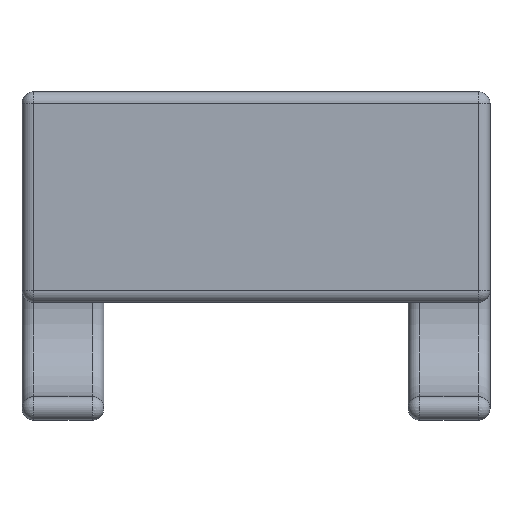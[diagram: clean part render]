
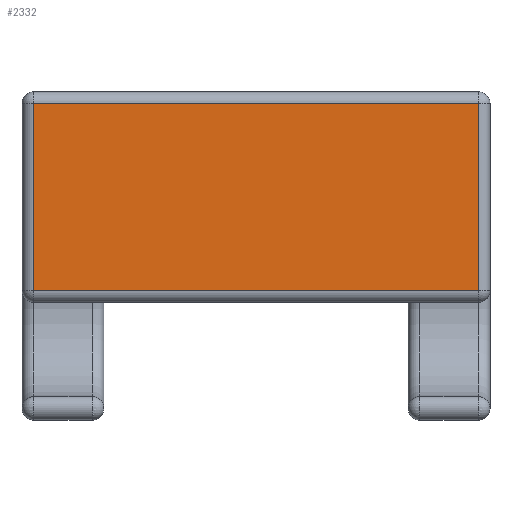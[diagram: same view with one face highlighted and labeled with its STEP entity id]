
A CAD part, top view. The second image highlights one B-rep face of the part: STEP entity #2332.
In plain terms, the highlighted planar face has unit normal (0, 0, 1).
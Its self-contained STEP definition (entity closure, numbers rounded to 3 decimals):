
#70=PLANE('',#2611);
#186=LINE('',#3905,#349);
#187=LINE('',#3908,#350);
#219=LINE('',#4180,#382);
#220=LINE('',#4182,#383);
#349=VECTOR('',#3117,10.);
#350=VECTOR('',#3122,10.);
#382=VECTOR('',#3250,10.);
#383=VECTOR('',#3253,10.);
#603=FACE_OUTER_BOUND('',#762,.T.);
#762=EDGE_LOOP('',(#1922,#1923,#1924,#1925));
#1076=VERTEX_POINT('',#3878);
#1077=VERTEX_POINT('',#3886);
#1080=VERTEX_POINT('',#3900);
#1081=VERTEX_POINT('',#3904);
#1334=EDGE_CURVE('',#1080,#1081,#186,.T.);
#1336=EDGE_CURVE('',#1077,#1080,#187,.T.);
#1401=EDGE_CURVE('',#1081,#1076,#219,.T.);
#1402=EDGE_CURVE('',#1076,#1077,#220,.T.);
#1922=ORIENTED_EDGE('',*,*,#1401,.F.);
#1923=ORIENTED_EDGE('',*,*,#1334,.F.);
#1924=ORIENTED_EDGE('',*,*,#1336,.F.);
#1925=ORIENTED_EDGE('',*,*,#1402,.F.);
#2332=ADVANCED_FACE('',(#603),#70,.T.);
#2611=AXIS2_PLACEMENT_3D('',#4183,#3254,#3255);
#3117=DIRECTION('',(0.,-1.,0.));
#3122=DIRECTION('',(1.,0.,0.));
#3250=DIRECTION('',(-1.,0.,0.));
#3253=DIRECTION('',(0.,1.,0.));
#3254=DIRECTION('center_axis',(0.,0.,1.));
#3255=DIRECTION('ref_axis',(0.,-1.,0.));
#3878=CARTESIAN_POINT('',(-19.,-6.,36.201));
#3886=CARTESIAN_POINT('',(-19.,10.,36.201));
#3900=CARTESIAN_POINT('',(19.,10.,36.201));
#3904=CARTESIAN_POINT('',(19.,-6.,36.201));
#3905=CARTESIAN_POINT('',(19.,4.,36.201));
#3908=CARTESIAN_POINT('',(0.,10.,36.201));
#4180=CARTESIAN_POINT('',(0.,-6.,36.201));
#4182=CARTESIAN_POINT('',(-19.,4.,36.201));
#4183=CARTESIAN_POINT('Origin',(0.,11.,36.201));
